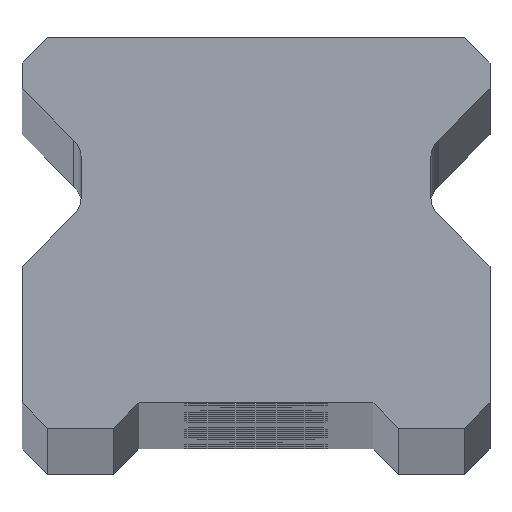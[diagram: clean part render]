
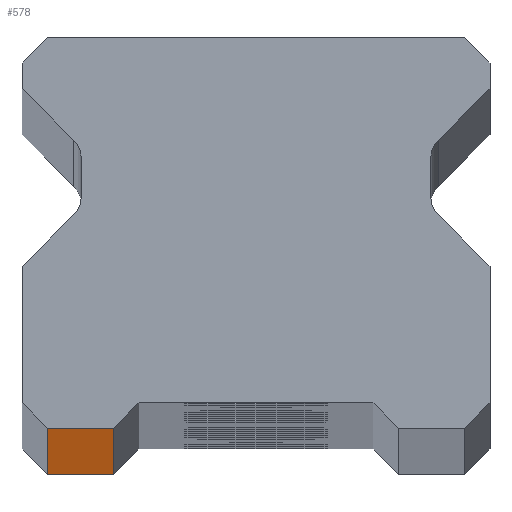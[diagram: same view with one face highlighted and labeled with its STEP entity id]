
A CAD part, top view. The second image highlights one B-rep face of the part: STEP entity #578.
In plain terms, the highlighted planar face has unit normal (0, -1, 0).
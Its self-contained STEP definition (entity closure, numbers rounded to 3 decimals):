
#256 = EDGE_CURVE ( 'NONE', #574, #3518, #3920, .T. ) ;
#269 = DIRECTION ( 'NONE',  ( 0., 1., 0. ) ) ;
#297 = LINE ( 'NONE', #3792, #3663 ) ;
#480 = ORIENTED_EDGE ( 'NONE', *, *, #1144, .T. ) ;
#519 = DIRECTION ( 'NONE',  ( 1., 0., 0. ) ) ;
#550 = CARTESIAN_POINT ( 'NONE',  ( -7., 0., -650. ) ) ;
#574 = VERTEX_POINT ( 'NONE', #550 ) ;
#578 = ADVANCED_FACE ( 'NONE', ( #1727 ), #3857, .F. ) ;
#597 = CARTESIAN_POINT ( 'NONE',  ( -7., 0., -650. ) ) ;
#621 = ORIENTED_EDGE ( 'NONE', *, *, #1118, .F. ) ;
#626 = CARTESIAN_POINT ( 'NONE',  ( -7., 0., 650. ) ) ;
#869 = CARTESIAN_POINT ( 'NONE',  ( -10.25, 0., -650. ) ) ;
#878 = LINE ( 'NONE', #1025, #4275 ) ;
#993 = LINE ( 'NONE', #1547, #1146 ) ;
#1025 = CARTESIAN_POINT ( 'NONE',  ( -10.25, 0., 650. ) ) ;
#1118 = EDGE_CURVE ( 'NONE', #2348, #3518, #297, .T. ) ;
#1137 = EDGE_CURVE ( 'NONE', #1276, #574, #993, .T. ) ;
#1144 = EDGE_CURVE ( 'NONE', #2348, #1276, #878, .T. ) ;
#1146 = VECTOR ( 'NONE', #3001, 1000. ) ;
#1276 = VERTEX_POINT ( 'NONE', #869 ) ;
#1280 = CARTESIAN_POINT ( 'NONE',  ( 11.5, 0., 650. ) ) ;
#1388 = ORIENTED_EDGE ( 'NONE', *, *, #256, .T. ) ;
#1547 = CARTESIAN_POINT ( 'NONE',  ( 11.5, 0., -650. ) ) ;
#1688 = DIRECTION ( 'NONE',  ( 0., 0., -1. ) ) ;
#1696 = EDGE_LOOP ( 'NONE', ( #1779, #1388, #621, #480 ) ) ;
#1727 = FACE_OUTER_BOUND ( 'NONE', #1696, .T. ) ;
#1779 = ORIENTED_EDGE ( 'NONE', *, *, #1137, .T. ) ;
#2033 = VECTOR ( 'NONE', #3536, 1000. ) ;
#2348 = VERTEX_POINT ( 'NONE', #3311 ) ;
#2715 = AXIS2_PLACEMENT_3D ( 'NONE', #1280, #269, #3572 ) ;
#3001 = DIRECTION ( 'NONE',  ( 1., 0., 0. ) ) ;
#3311 = CARTESIAN_POINT ( 'NONE',  ( -10.25, 0., 650. ) ) ;
#3518 = VERTEX_POINT ( 'NONE', #626 ) ;
#3536 = DIRECTION ( 'NONE',  ( 0., 0., 1. ) ) ;
#3572 = DIRECTION ( 'NONE',  ( -1., 0., 0. ) ) ;
#3663 = VECTOR ( 'NONE', #519, 1000. ) ;
#3792 = CARTESIAN_POINT ( 'NONE',  ( 11.5, 0., 650. ) ) ;
#3857 = PLANE ( 'NONE',  #2715 ) ;
#3920 = LINE ( 'NONE', #597, #2033 ) ;
#4275 = VECTOR ( 'NONE', #1688, 1000. ) ;
